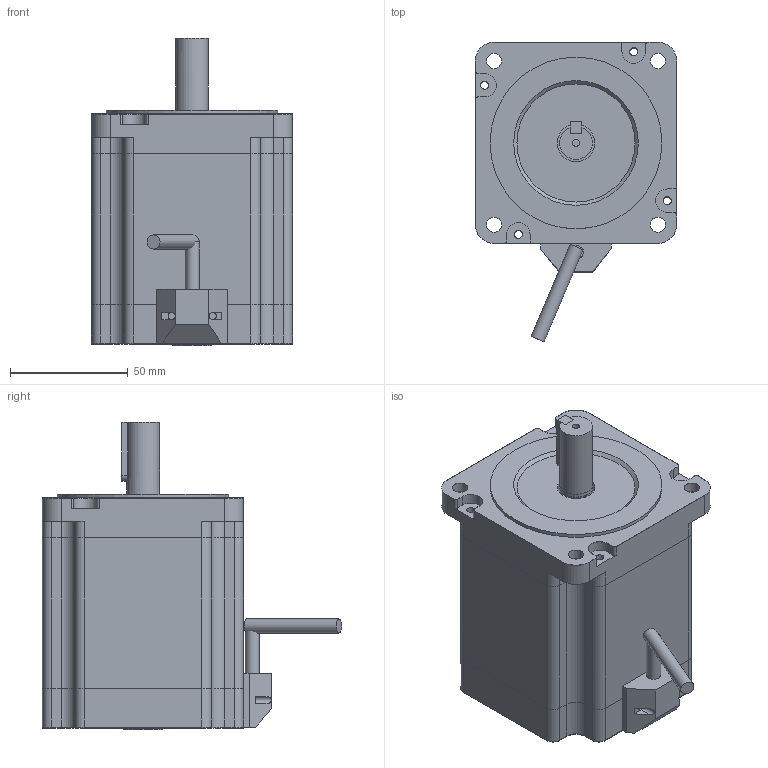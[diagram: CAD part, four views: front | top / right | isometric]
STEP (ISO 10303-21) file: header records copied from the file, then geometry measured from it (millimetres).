
FILE_DESCRIPTION(/* description */ (''),/* implementation_level */ '2;1');
FILE_NAME(/* name */ 'MP3-86H098.step',/* time_stamp */ '2021-07-28T13:00:11+08:00',/* author */ (''),/* organization */ (''),/* preprocessor_version */ 'ST-DEVELOPER v16',/* originating_system */ 'SIEMENS PLM Software NX 10.0',/* authorisation */ '');
FILE_SCHEMA (('AUTOMOTIVE_DESIGN { 1 0 10303 214 3 1 1 1 }'));
Length unit declared in the file: millimetre
Products named in the file (1): MP3-86H098
Bounding box: 85.5 x 127.21 x 130.5 mm (x, y, z)
Volume: 657282.9 mm3; surface area: 106934.5 mm2
Topology: 13 solids, 13 shells, 251 faces, 647 edges, 428 vertices
Faces by surface type: plane 119, cylinder 119, torus 12, cone 1
Full cylindrical faces by diameter (mm): 3 x4, 3.4 x12, 6 x2, 6.5 x8, 14 x5, 16 x3, 16.4 x1, 16.6 x1, 73 x1
Entity records: 7589 total; most frequent: DIRECTION 1348, CARTESIAN_POINT 1285, ORIENTED_EDGE 1184, EDGE_CURVE 592, AXIS2_PLACEMENT_3D 505, VERTEX_POINT 411, EDGE_LOOP 345, LINE 338
